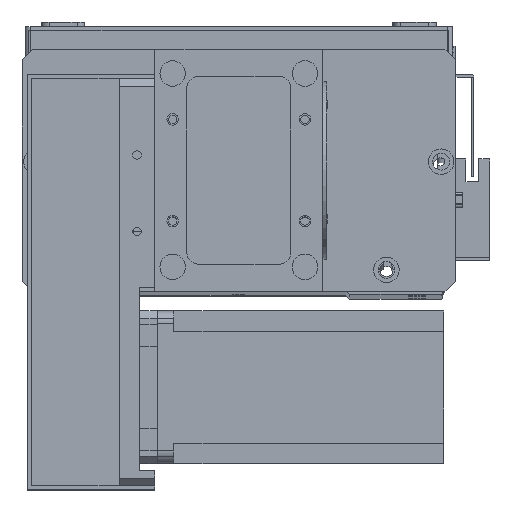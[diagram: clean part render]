
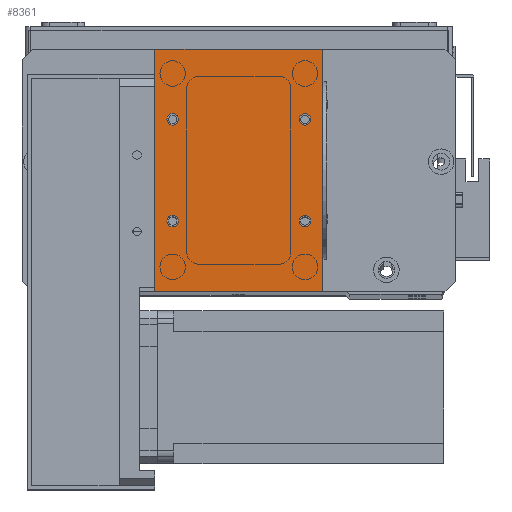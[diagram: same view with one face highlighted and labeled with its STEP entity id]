
A CAD part, top view. The second image highlights one B-rep face of the part: STEP entity #8361.
In plain terms, the highlighted planar face has unit normal (0, 0, 1).
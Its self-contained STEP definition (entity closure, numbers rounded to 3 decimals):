
#543 = DIRECTION ( 'NONE',  ( 0., 0., 1. ) ) ;
#1158 = CIRCLE ( 'NONE', #6416, 2.25 ) ;
#1281 = DIRECTION ( 'NONE',  ( 1., 0., 0. ) ) ;
#1357 = EDGE_LOOP ( 'NONE', ( #1817, #28370, #8318, #7750 ) ) ;
#1815 = CARTESIAN_POINT ( 'NONE',  ( 59., 67.5, 2. ) ) ;
#1817 = ORIENTED_EDGE ( 'NONE', *, *, #28038, .T. ) ;
#1993 = ORIENTED_EDGE ( 'NONE', *, *, #8360, .F. ) ;
#2109 = ORIENTED_EDGE ( 'NONE', *, *, #9679, .F. ) ;
#2515 = FACE_BOUND ( 'NONE', #17698, .T. ) ;
#2746 = VERTEX_POINT ( 'NONE', #20415 ) ;
#2844 = CARTESIAN_POINT ( 'NONE',  ( 56.75, 67.5, 2. ) ) ;
#3282 = FACE_BOUND ( 'NONE', #5135, .T. ) ;
#3510 = AXIS2_PLACEMENT_3D ( 'NONE', #30785, #28429, #13684 ) ;
#3577 = DIRECTION ( 'NONE',  ( 0., 0., 1. ) ) ;
#3658 = CARTESIAN_POINT ( 'NONE',  ( 0., 95., 2. ) ) ;
#3700 = AXIS2_PLACEMENT_3D ( 'NONE', #8718, #25891, #11151 ) ;
#4058 = ORIENTED_EDGE ( 'NONE', *, *, #5468, .F. ) ;
#4111 = CARTESIAN_POINT ( 'NONE',  ( 9.25, 27.5, 2. ) ) ;
#4262 = DIRECTION ( 'NONE',  ( 1., 0., 0. ) ) ;
#5119 = VERTEX_POINT ( 'NONE', #23612 ) ;
#5135 = EDGE_LOOP ( 'NONE', ( #14684, #30355 ) ) ;
#5299 = VECTOR ( 'NONE', #9668, 1000. ) ;
#5468 = EDGE_CURVE ( 'NONE', #20825, #15015, #1158, .T. ) ;
#5587 = CARTESIAN_POINT ( 'NONE',  ( 61.25, 67.5, 2. ) ) ;
#6326 = PLANE ( 'NONE',  #3510 ) ;
#6416 = AXIS2_PLACEMENT_3D ( 'NONE', #10677, #27856, #13127 ) ;
#7050 = AXIS2_PLACEMENT_3D ( 'NONE', #14175, #31388, #16674 ) ;
#7332 = CARTESIAN_POINT ( 'NONE',  ( 0., 0., 2. ) ) ;
#7665 = EDGE_CURVE ( 'NONE', #2746, #13244, #13643, .T. ) ;
#7750 = ORIENTED_EDGE ( 'NONE', *, *, #8831, .T. ) ;
#8262 = CIRCLE ( 'NONE', #15153, 2.25 ) ;
#8318 = ORIENTED_EDGE ( 'NONE', *, *, #19629, .T. ) ;
#8360 = EDGE_CURVE ( 'NONE', #15015, #20825, #22113, .T. ) ;
#8361 = ADVANCED_FACE ( 'NONE', ( #15541, #3282, #9030, #2515, #27827 ), #6326, .F. ) ;
#8718 = CARTESIAN_POINT ( 'NONE',  ( 59., 67.5, 2. ) ) ;
#8786 = CARTESIAN_POINT ( 'NONE',  ( 59., 27.5, 2. ) ) ;
#8831 = EDGE_CURVE ( 'NONE', #15766, #22595, #22518, .T. ) ;
#8886 = EDGE_LOOP ( 'NONE', ( #1993, #4058 ) ) ;
#9030 = FACE_BOUND ( 'NONE', #8886, .T. ) ;
#9668 = DIRECTION ( 'NONE',  ( 0., 1., 0. ) ) ;
#9679 = EDGE_CURVE ( 'NONE', #29426, #10456, #22462, .T. ) ;
#9780 = ORIENTED_EDGE ( 'NONE', *, *, #11266, .F. ) ;
#9796 = DIRECTION ( 'NONE',  ( 1., 0., 0. ) ) ;
#10278 = DIRECTION ( 'NONE',  ( 0., -1., 0. ) ) ;
#10456 = VERTEX_POINT ( 'NONE', #4111 ) ;
#10677 = CARTESIAN_POINT ( 'NONE',  ( 59., 27.5, 2. ) ) ;
#11151 = DIRECTION ( 'NONE',  ( 1., 0., 0. ) ) ;
#11222 = DIRECTION ( 'NONE',  ( 1., 0., 0. ) ) ;
#11266 = EDGE_CURVE ( 'NONE', #10456, #29426, #25030, .T. ) ;
#12127 = CARTESIAN_POINT ( 'NONE',  ( 66., 0., 2. ) ) ;
#12608 = CARTESIAN_POINT ( 'NONE',  ( 0., 0., 2. ) ) ;
#12745 = AXIS2_PLACEMENT_3D ( 'NONE', #1815, #18965, #4262 ) ;
#12795 = LINE ( 'NONE', #7332, #31672 ) ;
#13127 = DIRECTION ( 'NONE',  ( 1., 0., 0. ) ) ;
#13244 = VERTEX_POINT ( 'NONE', #31512 ) ;
#13283 = EDGE_LOOP ( 'NONE', ( #14792, #25723 ) ) ;
#13632 = AXIS2_PLACEMENT_3D ( 'NONE', #15194, #543, #17676 ) ;
#13643 = CIRCLE ( 'NONE', #21254, 2.25 ) ;
#13684 = DIRECTION ( 'NONE',  ( -1., 0., 0. ) ) ;
#14138 = EDGE_CURVE ( 'NONE', #13244, #2746, #8262, .T. ) ;
#14175 = CARTESIAN_POINT ( 'NONE',  ( 7., 27.5, 2. ) ) ;
#14684 = ORIENTED_EDGE ( 'NONE', *, *, #27047, .F. ) ;
#14792 = ORIENTED_EDGE ( 'NONE', *, *, #7665, .F. ) ;
#14984 = EDGE_CURVE ( 'NONE', #27627, #5119, #12795, .T. ) ;
#15015 = VERTEX_POINT ( 'NONE', #19663 ) ;
#15153 = AXIS2_PLACEMENT_3D ( 'NONE', #30668, #15942, #1281 ) ;
#15194 = CARTESIAN_POINT ( 'NONE',  ( 7., 27.5, 2. ) ) ;
#15541 = FACE_BOUND ( 'NONE', #13283, .T. ) ;
#15766 = VERTEX_POINT ( 'NONE', #19103 ) ;
#15940 = VECTOR ( 'NONE', #17985, 1000. ) ;
#15942 = DIRECTION ( 'NONE',  ( 0., 0., 1. ) ) ;
#16072 = CARTESIAN_POINT ( 'NONE',  ( 0., 0., 2. ) ) ;
#16674 = DIRECTION ( 'NONE',  ( 1., 0., 0. ) ) ;
#17676 = DIRECTION ( 'NONE',  ( 1., 0., 0. ) ) ;
#17698 = EDGE_LOOP ( 'NONE', ( #9780, #2109 ) ) ;
#17985 = DIRECTION ( 'NONE',  ( -1., 0., 0. ) ) ;
#18272 = CARTESIAN_POINT ( 'NONE',  ( 7., 67.5, 2. ) ) ;
#18275 = CIRCLE ( 'NONE', #12745, 2.25 ) ;
#18361 = VERTEX_POINT ( 'NONE', #2844 ) ;
#18691 = LINE ( 'NONE', #12608, #31768 ) ;
#18965 = DIRECTION ( 'NONE',  ( 0., 0., 1. ) ) ;
#19103 = CARTESIAN_POINT ( 'NONE',  ( 66., 95., 2. ) ) ;
#19629 = EDGE_CURVE ( 'NONE', #5119, #15766, #25634, .T. ) ;
#19663 = CARTESIAN_POINT ( 'NONE',  ( 61.25, 27.5, 2. ) ) ;
#19889 = VERTEX_POINT ( 'NONE', #5587 ) ;
#20415 = CARTESIAN_POINT ( 'NONE',  ( 9.25, 67.5, 2. ) ) ;
#20728 = DIRECTION ( 'NONE',  ( 1., 0., 0. ) ) ;
#20825 = VERTEX_POINT ( 'NONE', #29148 ) ;
#21254 = AXIS2_PLACEMENT_3D ( 'NONE', #18272, #3577, #20728 ) ;
#21275 = CIRCLE ( 'NONE', #3700, 2.25 ) ;
#22113 = CIRCLE ( 'NONE', #30451, 2.25 ) ;
#22462 = CIRCLE ( 'NONE', #7050, 2.25 ) ;
#22518 = LINE ( 'NONE', #30235, #15940 ) ;
#22595 = VERTEX_POINT ( 'NONE', #3658 ) ;
#23612 = CARTESIAN_POINT ( 'NONE',  ( 66., 0., 2. ) ) ;
#25030 = CIRCLE ( 'NONE', #13632, 2.25 ) ;
#25634 = LINE ( 'NONE', #12127, #5299 ) ;
#25723 = ORIENTED_EDGE ( 'NONE', *, *, #14138, .F. ) ;
#25891 = DIRECTION ( 'NONE',  ( 0., 0., 1. ) ) ;
#25970 = DIRECTION ( 'NONE',  ( 0., 0., 1. ) ) ;
#26182 = CARTESIAN_POINT ( 'NONE',  ( 4.75, 27.5, 2. ) ) ;
#27047 = EDGE_CURVE ( 'NONE', #19889, #18361, #21275, .T. ) ;
#27627 = VERTEX_POINT ( 'NONE', #16072 ) ;
#27827 = FACE_OUTER_BOUND ( 'NONE', #1357, .T. ) ;
#27856 = DIRECTION ( 'NONE',  ( 0., 0., 1. ) ) ;
#28038 = EDGE_CURVE ( 'NONE', #22595, #27627, #18691, .T. ) ;
#28286 = EDGE_CURVE ( 'NONE', #18361, #19889, #18275, .T. ) ;
#28370 = ORIENTED_EDGE ( 'NONE', *, *, #14984, .T. ) ;
#28429 = DIRECTION ( 'NONE',  ( 0., 0., -1. ) ) ;
#29148 = CARTESIAN_POINT ( 'NONE',  ( 56.75, 27.5, 2. ) ) ;
#29426 = VERTEX_POINT ( 'NONE', #26182 ) ;
#30235 = CARTESIAN_POINT ( 'NONE',  ( 0., 95., 2. ) ) ;
#30355 = ORIENTED_EDGE ( 'NONE', *, *, #28286, .F. ) ;
#30451 = AXIS2_PLACEMENT_3D ( 'NONE', #8786, #25970, #11222 ) ;
#30668 = CARTESIAN_POINT ( 'NONE',  ( 7., 67.5, 2. ) ) ;
#30785 = CARTESIAN_POINT ( 'NONE',  ( 0., 0., 2. ) ) ;
#31388 = DIRECTION ( 'NONE',  ( 0., 0., 1. ) ) ;
#31512 = CARTESIAN_POINT ( 'NONE',  ( 4.75, 67.5, 2. ) ) ;
#31672 = VECTOR ( 'NONE', #9796, 1000. ) ;
#31768 = VECTOR ( 'NONE', #10278, 1000. ) ;
